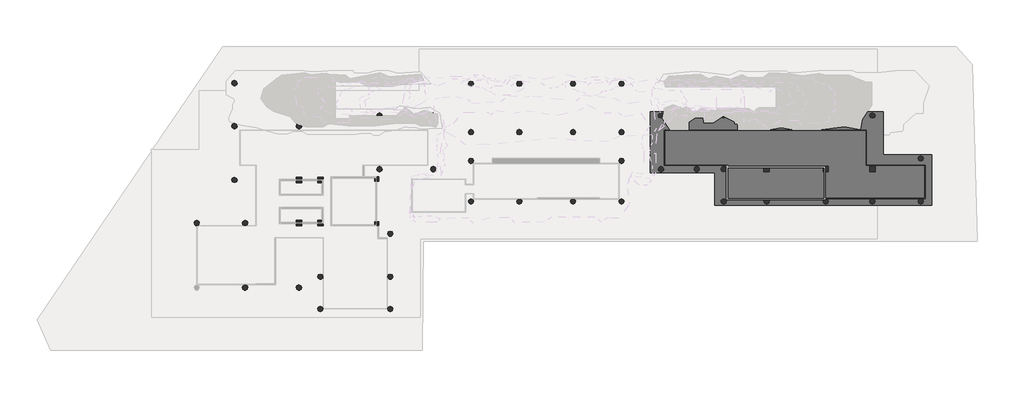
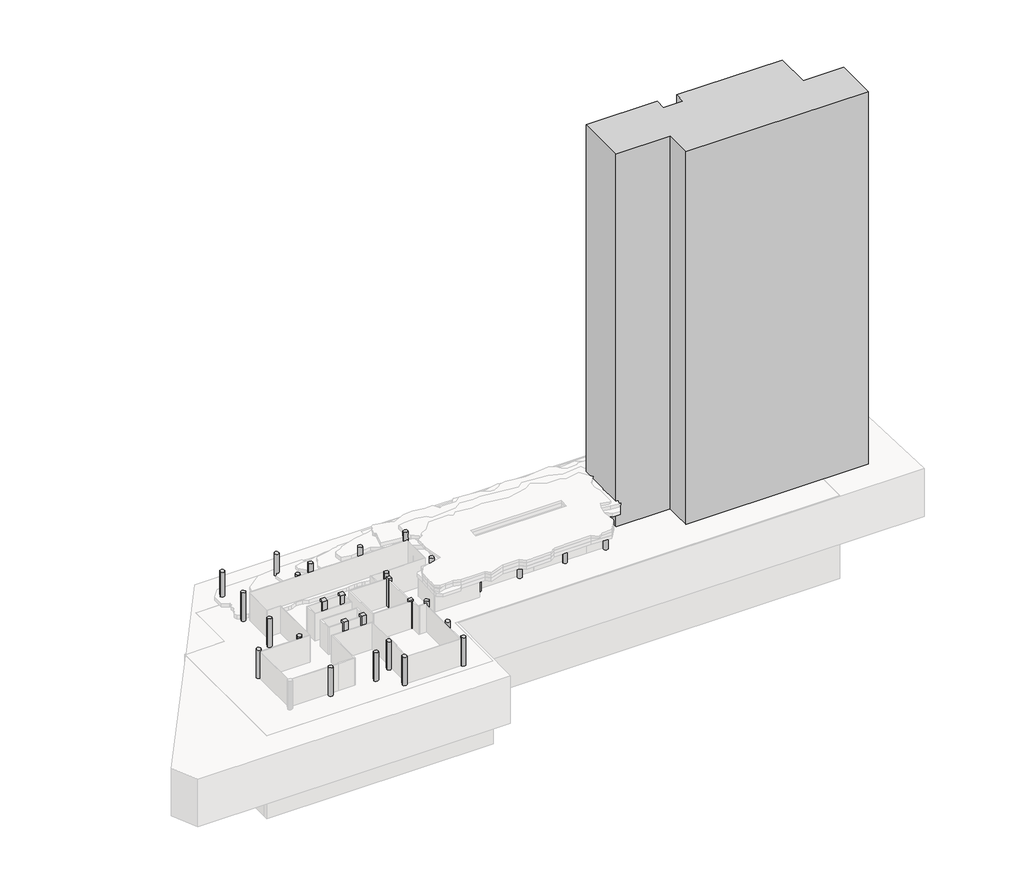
# One storey, part 3 of 3: 57 columns, 1 proxy.
"""IFC4 building model written with IfcOpenShell, lengths in millimetres."""

from ifc_helpers import new_model, si_unit, point, frame, frame_2d, origin, place, context, project, spatial, polyline, circle_curve, trimmed, segment, composite_curve, outline, extrude, faceted_brep, transform, mapped, element, save
from ifc_brep_helpers import plane_surface, cylinder_surface, advanced_brep
from components import ajn_arc_poteau_circulaire_cd6ccd54, ajn_arc_poteau_rectangulaire_79770069

model = new_model("IFC4")

# Units and contexts
model_context = context("Model", 3, world=origin())
ifc_project = project(units=[si_unit("LENGTHUNIT", "METRE", prefix="MILLI")], contexts=[model_context])

# Site, building, storey
site = spatial("IfcSite", under=ifc_project)
building = spatial("IfcBuilding", under=site)
storey = spatial("IfcBuildingStorey", under=building, Name="TW-L 01", Elevation=-3.14e-05)

# Proxy
placement = place(None, origin())
element("IfcBuildingElementProxy", 1, Name="AJN-ARC-MASS TE : AJN-ARC-MASS TE", ObjectType="AJN-ARC-MASS TE : AJN-ARC-MASS TE", at=placement, inside=storey, context=model_context, shape_type="SweptSolid", body=[
    extrude(outline(polyline([(147400.0, 24300.0), (111100.0, 24300.0), (111100.0, 29700.0), (100300.0, 29700.0), (100300.0, 39900.0), (114400.0, 39900.0), (114400.0, 37800.0), (118300.0, 37800.0), (118300.0, 39900.0), (139300.0, 39900.0), (139300.0, 32700.0), (147400.0, 32700.0), (147400.0, 24300.0)])), frame((0.0, 0.0, -3.14e-05), z_axis=(0.0, 0.0, 1.0), x_axis=(1.0, 0.0, 0.0)), (0.0, 0.0, 1.0), 78400.0),
])

# Columns
element("IfcColumn", 2, ObjectType="AJN-ARC-POTEAU CIRCULAIRE : ø90", at=placement, inside=storey, context=model_context, shape_type="SweptSolid", body=[
    extrude(outline(composite_curve([segment(trimmed(circle_curve(frame_2d((30700.0, 44700.0)), 450.0), [point((30250.0, 44700.0))], [point((31150.0, 44700.0))], False, "CARTESIAN"), True, "CONTINUOUS"), segment(trimmed(circle_curve(frame_2d((30700.0, 44700.0)), 450.0), [point((31150.0, 44700.0))], [point((30250.0, 44700.0))], False, "CARTESIAN"), True, "CONTINUOUS")], self_intersect=False)), frame((0.0, 0.0, -3.14e-05), z_axis=(0.0, 0.0, 1.0), x_axis=(1.0, 0.0, 0.0)), (0.0, 0.0, 1.0), 6000.0),
])
element("IfcColumn", 3, ObjectType="AJN-ARC-POTEAU CIRCULAIRE : ø90", at=placement, inside=storey, context=model_context, shape_type="SweptSolid", body=[
    extrude(outline(composite_curve([segment(trimmed(circle_curve(frame_2d((41500.0, 44700.0)), 450.0), [point((41050.0, 44700.0))], [point((41950.0, 44700.0))], False, "CARTESIAN"), True, "CONTINUOUS"), segment(trimmed(circle_curve(frame_2d((41500.0, 44700.0)), 450.0), [point((41950.0, 44700.0))], [point((41050.0, 44700.0))], False, "CARTESIAN"), True, "CONTINUOUS")], self_intersect=False)), frame((0.0, 0.0, -3.14e-05), z_axis=(0.0, 0.0, 1.0), x_axis=(1.0, 0.0, 0.0)), (0.0, 0.0, 1.0), 6000.0),
])
element("IfcColumn", 4, ObjectType="AJN-ARC-POTEAU CIRCULAIRE : ø90", at=placement, inside=storey, context=model_context, shape_type="SweptSolid", body=[
    extrude(outline(composite_curve([segment(trimmed(circle_curve(frame_2d((41500.0, 37500.0)), 450.0), [point((41050.0, 37500.0))], [point((41950.0, 37500.0))], False, "CARTESIAN"), True, "CONTINUOUS"), segment(trimmed(circle_curve(frame_2d((41500.0, 37500.0)), 450.0), [point((41950.0, 37500.0))], [point((41050.0, 37500.0))], False, "CARTESIAN"), True, "CONTINUOUS")], self_intersect=False)), frame((0.0, 0.0, -3.14e-05), z_axis=(0.0, 0.0, 1.0), x_axis=(1.0, 0.0, 0.0)), (0.0, 0.0, 1.0), 6000.0),
])
element("IfcColumn", 5, ObjectType="AJN-ARC-POTEAU CIRCULAIRE : ø90", at=placement, inside=storey, context=model_context, shape_type="SweptSolid", body=[
    extrude(outline(composite_curve([segment(trimmed(circle_curve(frame_2d((32500.0, 21300.0)), 450.0), [point((32050.0, 21300.0))], [point((32950.0, 21300.0))], False, "CARTESIAN"), True, "CONTINUOUS"), segment(trimmed(circle_curve(frame_2d((32500.0, 21300.0)), 450.0), [point((32950.0, 21300.0))], [point((32050.0, 21300.0))], False, "CARTESIAN"), True, "CONTINUOUS")], self_intersect=False)), frame((0.0, 0.0, -3.14e-05), z_axis=(0.0, 0.0, 1.0), x_axis=(1.0, 0.0, 0.0)), (0.0, 0.0, 1.0), 6000.0),
])
element("IfcColumn", 6, ObjectType="AJN-ARC-POTEAU CIRCULAIRE : ø90", at=placement, inside=storey, context=model_context, shape_type="SweptSolid", body=[
    extrude(outline(composite_curve([segment(trimmed(circle_curve(frame_2d((24400.0, 21300.0)), 450.0), [point((23950.0, 21300.0))], [point((24850.0, 21300.0))], False, "CARTESIAN"), True, "CONTINUOUS"), segment(trimmed(circle_curve(frame_2d((24400.0, 21300.0)), 450.0), [point((24850.0, 21300.0))], [point((23950.0, 21300.0))], False, "CARTESIAN"), True, "CONTINUOUS")], self_intersect=False)), frame((0.0, 0.0, -3.14e-05), z_axis=(0.0, 0.0, 1.0), x_axis=(1.0, 0.0, 0.0)), (0.0, 0.0, 1.0), 6000.0),
])
element("IfcColumn", 7, ObjectType="AJN-ARC-POTEAU CIRCULAIRE : ø90", at=placement, inside=storey, context=model_context, shape_type="SweptSolid", body=[
    extrude(outline(composite_curve([segment(trimmed(circle_curve(frame_2d((32500.0, 10500.0)), 450.0), [point((32050.0, 10500.0))], [point((32950.0, 10500.0))], False, "CARTESIAN"), True, "CONTINUOUS"), segment(trimmed(circle_curve(frame_2d((32500.0, 10500.0)), 450.0), [point((32950.0, 10500.0))], [point((32050.0, 10500.0))], False, "CARTESIAN"), True, "CONTINUOUS")], self_intersect=False)), frame((0.0, 0.0, -3.14e-05), z_axis=(0.0, 0.0, 1.0), x_axis=(1.0, 0.0, 0.0)), (0.0, 0.0, 1.0), 6000.0),
])
element("IfcColumn", 8, ObjectType="AJN-ARC-POTEAU CIRCULAIRE : ø90", at=placement, inside=storey, context=model_context, shape_type="SweptSolid", body=[
    extrude(outline(composite_curve([segment(trimmed(circle_curve(frame_2d((45100.0, 12300.0)), 450.0), [point((44650.0, 12300.0))], [point((45550.0, 12300.0))], False, "CARTESIAN"), True, "CONTINUOUS"), segment(trimmed(circle_curve(frame_2d((45100.0, 12300.0)), 450.0), [point((45550.0, 12300.0))], [point((44650.0, 12300.0))], False, "CARTESIAN"), True, "CONTINUOUS")], self_intersect=False)), frame((0.0, 0.0, -3.14e-05), z_axis=(0.0, 0.0, 1.0), x_axis=(1.0, 0.0, 0.0)), (0.0, 0.0, 1.0), 6000.0),
])
element("IfcColumn", 9, ObjectType="AJN-ARC-POTEAU CIRCULAIRE : ø90", at=placement, inside=storey, context=model_context, shape_type="SweptSolid", body=[
    extrude(outline(composite_curve([segment(trimmed(circle_curve(frame_2d((45100.0, 6900.0)), 450.0), [point((44650.0, 6900.0))], [point((45550.0, 6900.0))], False, "CARTESIAN"), True, "CONTINUOUS"), segment(trimmed(circle_curve(frame_2d((45100.0, 6900.0)), 450.0), [point((45550.0, 6900.0))], [point((44650.0, 6900.0))], False, "CARTESIAN"), True, "CONTINUOUS")], self_intersect=False)), frame((0.0, 0.0, -3.14e-05), z_axis=(0.0, 0.0, 1.0), x_axis=(1.0, 0.0, 0.0)), (0.0, 0.0, 1.0), 6000.0),
])
element("IfcColumn", 10, ObjectType="AJN-ARC-POTEAU CIRCULAIRE : ø90", at=placement, inside=storey, context=model_context, shape_type="SweptSolid", body=[
    extrude(outline(composite_curve([segment(trimmed(circle_curve(frame_2d((56800.0, 6900.0)), 450.0), [point((56350.0, 6900.0))], [point((57250.0, 6900.0))], False, "CARTESIAN"), True, "CONTINUOUS"), segment(trimmed(circle_curve(frame_2d((56800.0, 6900.0)), 450.0), [point((57250.0, 6900.0))], [point((56350.0, 6900.0))], False, "CARTESIAN"), True, "CONTINUOUS")], self_intersect=False)), frame((0.0, 0.0, -3.14e-05), z_axis=(0.0, 0.0, 1.0), x_axis=(1.0, 0.0, 0.0)), (0.0, 0.0, 1.0), 6000.0),
])
element("IfcColumn", 11, ObjectType="AJN-ARC-POTEAU CIRCULAIRE : ø90", at=placement, inside=storey, context=model_context, shape_type="SweptSolid", body=[
    extrude(outline(composite_curve([segment(trimmed(circle_curve(frame_2d((56800.0, 12300.0)), 450.0), [point((56350.0, 12300.0))], [point((57250.0, 12300.0))], False, "CARTESIAN"), True, "CONTINUOUS"), segment(trimmed(circle_curve(frame_2d((56800.0, 12300.0)), 450.0), [point((57250.0, 12300.0))], [point((56350.0, 12300.0))], False, "CARTESIAN"), True, "CONTINUOUS")], self_intersect=False)), frame((0.0, 0.0, -3.14e-05), z_axis=(0.0, 0.0, 1.0), x_axis=(1.0, 0.0, 0.0)), (0.0, 0.0, 1.0), 6000.0),
])
element("IfcColumn", 12, ObjectType="AJN-ARC-POTEAU CIRCULAIRE : ø90", at=placement, inside=storey, context=model_context, shape_type="SweptSolid", body=[
    extrude(outline(composite_curve([segment(trimmed(circle_curve(frame_2d((112600.0, 30300.0)), 450.0), [point((112150.0, 30300.0))], [point((113050.0, 30300.0))], False, "CARTESIAN"), True, "CONTINUOUS"), segment(trimmed(circle_curve(frame_2d((112600.0, 30300.0)), 450.0), [point((113050.0, 30300.0))], [point((112150.0, 30300.0))], False, "CARTESIAN"), True, "CONTINUOUS")], self_intersect=False)), frame((0.0, 0.0, -3.14e-05), z_axis=(0.0, 0.0, 1.0), x_axis=(1.0, 0.0, 0.0)), (0.0, 0.0, 1.0), 6000.0),
])
element("IfcColumn", 13, ObjectType="AJN-ARC-POTEAU CIRCULAIRE : ø90", at=placement, inside=storey, context=model_context, shape_type="SweptSolid", body=[
    extrude(outline(composite_curve([segment(trimmed(circle_curve(frame_2d((112600.0, 24900.0)), 450.0), [point((112150.0, 24900.0))], [point((113050.0, 24900.0))], False, "CARTESIAN"), True, "CONTINUOUS"), segment(trimmed(circle_curve(frame_2d((112600.0, 24900.0)), 450.0), [point((113050.0, 24900.0))], [point((112150.0, 24900.0))], False, "CARTESIAN"), True, "CONTINUOUS")], self_intersect=False)), frame((0.0, 0.0, -3.14e-05), z_axis=(0.0, 0.0, 1.0), x_axis=(1.0, 0.0, 0.0)), (0.0, 0.0, 1.0), 6000.0),
])
element("IfcColumn", 14, ObjectType="AJN-ARC-POTEAU CIRCULAIRE : ø90", at=placement, inside=storey, context=model_context, shape_type="AdvancedBrep", body=[
    advanced_brep(
    [(120250.0, 24900.0, -3.14e-05), (119350.0, 24900.0, -3.14e-05), (119425.8342613, 25150.0, -3.14e-05), (120174.1657387, 25150.0, -3.14e-05), (119350.0, 24900.0, 5999.9999686), (120250.0, 24900.0, 5999.9999686), (120174.1657387, 25150.0, 5699.9999686), (119800.0, 25350.0, 5699.9999686), (119425.8342613, 25150.0, 5699.9999686)],
    [
        (0, 1, circle_curve(frame((119800.0, 24900.0, -3.14e-05), z_axis=(0.0, 0.0, -1.0), x_axis=(1.0, 0.0, 0.0)), 450.0)),
        (1, 2, circle_curve(frame((119800.0, 24900.0, -3.14e-05), z_axis=(0.0, 0.0, -1.0), x_axis=(1.0, 0.0, 0.0)), 450.0)),
        (2, 3),
        (3, 0, circle_curve(frame((119800.0, 24900.0, -3.14e-05), z_axis=(0.0, 0.0, -1.0), x_axis=(1.0, 0.0, 0.0)), 450.0)),
        (4, 5, circle_curve(frame((119800.0, 24900.0, 5999.9999686), z_axis=(0.0, 0.0, -1.0), x_axis=(1.0, 0.0, 0.0)), 450.0)),
        (5, 0),
        (3, 6),
        (6, 7, circle_curve(frame((119800.0, 24900.0, 5699.9999686), z_axis=(0.0, 0.0, 1.0), x_axis=(1.0, 0.0, 0.0)), 450.0)),
        (7, 8, circle_curve(frame((119800.0, 24900.0, 5699.9999686), z_axis=(0.0, 0.0, 1.0), x_axis=(1.0, 0.0, 0.0)), 450.0)),
        (8, 2),
        (1, 4),
        (5, 4, circle_curve(frame((119800.0, 24900.0, 5999.9999686), z_axis=(0.0, 0.0, -1.0), x_axis=(1.0, 0.0, 0.0)), 450.0)),
        (8, 6),
    ],
    [
        plane_surface(frame((120250.0, 24900.0, -3.14e-05), z_axis=(0.0, 0.0, -1.0), x_axis=(0.0, -1.0, 0.0))),
        cylinder_surface(frame((119800.0, 24900.0, -3.14e-05), z_axis=(0.0, 0.0, 1.0), x_axis=(1.0, 0.0, 0.0)), 450.0),
        plane_surface(frame((120250.0, 24900.0, 5999.9999686), z_axis=(0.0, 0.0, 1.0), x_axis=(0.0, 1.0, 0.0))),
        plane_surface(frame((113150.0, 25150.0, -3.14e-05), z_axis=(0.0, 1.0, 0.0), x_axis=(1.0, 0.0, 0.0))),
        plane_surface(frame((64150.0790143, 29850.0000057, 5699.9999686), z_axis=(0.0, 0.0, -1.0), x_axis=(-5.308755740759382e-05, 0.9999999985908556, 0.0))),
    ],
    [
        (0, [[1, 2, 3, 4]]),
        (1, [[5, 6, -4, 7, 8, 9, 10, -2, 11]]),
        (1, [[-1, -6, 12, -11]]),
        (2, [[-5, -12]]),
        (3, [[13, -7, -3, -10]]),
        (4, [[-13, -9, -8]]),
    ],
),
])
element("IfcColumn", 15, ObjectType="AJN-ARC-POTEAU CIRCULAIRE : ø90", at=placement, inside=storey, context=model_context, shape_type="AdvancedBrep", body=[
    advanced_brep(
    [(130150.0, 24900.0, -3.14e-05), (129250.0, 24900.0, -3.14e-05), (129325.8342613, 25150.0, -3.14e-05), (129600.0, 25150.0, -3.14e-05), (129600.0, 25338.7482194, -3.14e-05), (129250.0, 24900.0, 5999.9999686), (130150.0, 24900.0, 5999.9999686), (129600.0, 25338.7482194, 5699.9999686), (129325.8342613, 25150.0, 5699.9999686), (129600.0, 25150.0, 5699.9999686)],
    [
        (0, 1, circle_curve(frame((129700.0, 24900.0, -3.14e-05), z_axis=(0.0, 0.0, -1.0), x_axis=(1.0, 0.0, 0.0)), 450.0)),
        (1, 2, circle_curve(frame((129700.0, 24900.0, -3.14e-05), z_axis=(0.0, 0.0, -1.0), x_axis=(1.0, 0.0, 0.0)), 450.0)),
        (2, 3),
        (3, 4),
        (4, 0, circle_curve(frame((129700.0, 24900.0, -3.14e-05), z_axis=(0.0, 0.0, -1.0), x_axis=(1.0, 0.0, 0.0)), 450.0)),
        (5, 6, circle_curve(frame((129700.0, 24900.0, 5999.9999686), z_axis=(0.0, 0.0, -1.0), x_axis=(1.0, 0.0, 0.0)), 450.0)),
        (6, 0),
        (4, 7),
        (7, 8, circle_curve(frame((129700.0, 24900.0, 5699.9999686), z_axis=(0.0, 0.0, 1.0), x_axis=(1.0, 0.0, 0.0)), 450.0)),
        (8, 2),
        (1, 5),
        (6, 5, circle_curve(frame((129700.0, 24900.0, 5999.9999686), z_axis=(0.0, 0.0, -1.0), x_axis=(1.0, 0.0, 0.0)), 450.0)),
        (9, 3),
        (8, 9),
        (9, 7),
    ],
    [
        plane_surface(frame((130150.0, 24900.0, -3.14e-05), z_axis=(0.0, 0.0, -1.0), x_axis=(0.0, -1.0, 0.0))),
        cylinder_surface(frame((129700.0, 24900.0, -3.14e-05), z_axis=(0.0, 0.0, 1.0), x_axis=(1.0, 0.0, 0.0)), 450.0),
        plane_surface(frame((130150.0, 24900.0, 5999.9999686), z_axis=(0.0, 0.0, 1.0), x_axis=(0.0, 1.0, 0.0))),
        plane_surface(frame((113150.0, 25150.0, -3.14e-05), z_axis=(0.0, 1.0, 0.0), x_axis=(1.0, 0.0, 0.0))),
        plane_surface(frame((129600.0, 25250.0, -3.14e-05), z_axis=(-1.0, 0.0, 0.0), x_axis=(0.0, 1.0, 0.0))),
        plane_surface(frame((64150.0790143, 29850.0000057, 5699.9999686), z_axis=(0.0, 0.0, -1.0), x_axis=(-5.308755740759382e-05, 0.9999999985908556, 0.0))),
    ],
    [
        (0, [[1, 2, 3, 4, 5]]),
        (1, [[6, 7, -5, 8, 9, 10, -2, 11]]),
        (1, [[-1, -7, 12, -11]]),
        (2, [[-6, -12]]),
        (3, [[13, -3, -10, 14]]),
        (4, [[-13, 15, -8, -4]]),
        (5, [[-14, -9, -15]]),
    ],
),
])
element("IfcColumn", 16, ObjectType="AJN-ARC-POTEAU CIRCULAIRE : ø90", at=placement, inside=storey, context=model_context, shape_type="SweptSolid", body=[
    extrude(outline(composite_curve([segment(trimmed(circle_curve(frame_2d((137500.0, 24900.0)), 450.0), [point((137050.0, 24900.0))], [point((137950.0, 24900.0))], False, "CARTESIAN"), True, "CONTINUOUS"), segment(trimmed(circle_curve(frame_2d((137500.0, 24900.0)), 450.0), [point((137950.0, 24900.0))], [point((137050.0, 24900.0))], False, "CARTESIAN"), True, "CONTINUOUS")], self_intersect=False)), frame((0.0, 0.0, -3.14e-05), z_axis=(0.0, 0.0, 1.0), x_axis=(1.0, 0.0, 0.0)), (0.0, 0.0, 1.0), 6000.0),
])
element("IfcColumn", 17, ObjectType="AJN-ARC-POTEAU CIRCULAIRE : ø90", at=placement, inside=storey, context=model_context, shape_type="SweptSolid", body=[
    extrude(outline(composite_curve([segment(trimmed(circle_curve(frame_2d((145600.0, 24900.0)), 450.0), [point((145150.0, 24900.0))], [point((146050.0, 24900.0))], False, "CARTESIAN"), True, "CONTINUOUS"), segment(trimmed(circle_curve(frame_2d((145600.0, 24900.0)), 450.0), [point((146050.0, 24900.0))], [point((145150.0, 24900.0))], False, "CARTESIAN"), True, "CONTINUOUS")], self_intersect=False)), frame((0.0, 0.0, -3.14e-05), z_axis=(0.0, 0.0, 1.0), x_axis=(1.0, 0.0, 0.0)), (0.0, 0.0, 1.0), 6000.0),
])
element("IfcColumn", 18, ObjectType="AJN-ARC-POTEAU CIRCULAIRE : ø90", at=placement, inside=storey, context=model_context, shape_type="SweptSolid", body=[
    extrude(outline(composite_curve([segment(trimmed(circle_curve(frame_2d((70300.0, 24900.0)), 450.0), [point((69850.0, 24900.0))], [point((70750.0, 24900.0))], False, "CARTESIAN"), True, "CONTINUOUS"), segment(trimmed(circle_curve(frame_2d((70300.0, 24900.0)), 450.0), [point((70750.0, 24900.0))], [point((69850.0, 24900.0))], False, "CARTESIAN"), True, "CONTINUOUS")], self_intersect=False)), frame((0.0, 0.0, -3.14e-05), z_axis=(0.0, 0.0, 1.0), x_axis=(1.0, 0.0, 0.0)), (0.0, 0.0, 1.0), 4000.0),
])
element("IfcColumn", 19, ObjectType="AJN-ARC-POTEAU CIRCULAIRE : ø90", at=placement, inside=storey, context=model_context, shape_type="AdvancedBrep", body=[
    advanced_brep(
    [(87850.0, 24900.0, -3.14e-05), (86950.0, 24900.0, -3.14e-05), (87193.8685441, 25300.0122784, -3.14e-05), (87606.1334684, 25300.0112414, -3.14e-05), (86950.0, 24900.0, 5400.0), (87850.0, 24900.0, 5400.0), (87606.1334684, 25300.0112414, 4000.0), (87193.8685441, 25300.0122784, 4000.0)],
    [
        (0, 1, circle_curve(frame((87400.0, 24900.0, -3.14e-05), z_axis=(0.0, 0.0, -1.0), x_axis=(1.0, 0.0, 0.0)), 450.0)),
        (1, 2, circle_curve(frame((87400.0, 24900.0, -3.14e-05), z_axis=(0.0, 0.0, -1.0), x_axis=(1.0, 0.0, 0.0)), 450.0)),
        (2, 3),
        (3, 0, circle_curve(frame((87400.0, 24900.0, -3.14e-05), z_axis=(0.0, 0.0, -1.0), x_axis=(1.0, 0.0, 0.0)), 450.0)),
        (4, 5, circle_curve(frame((87400.0, 24900.0, 5400.0), z_axis=(0.0, 0.0, -1.0), x_axis=(1.0, 0.0, 0.0)), 450.0)),
        (5, 0),
        (3, 6),
        (6, 7, circle_curve(frame((87400.0, 24900.0, 4000.0), z_axis=(0.0, 0.0, 1.0), x_axis=(1.0, 0.0, 0.0)), 450.0)),
        (7, 2),
        (1, 4),
        (5, 4, circle_curve(frame((87400.0, 24900.0, 5400.0), z_axis=(0.0, 0.0, -1.0), x_axis=(1.0, 0.0, 0.0)), 450.0)),
        (7, 6),
    ],
    [
        plane_surface(frame((87850.0, 24900.0, -3.14e-05), z_axis=(0.0, 0.0, -1.0), x_axis=(0.0, -1.0, 0.0))),
        cylinder_surface(frame((87400.0, 24900.0, -3.14e-05), z_axis=(0.0, 0.0, 1.0), x_axis=(1.0, 0.0, 0.0)), 450.0),
        plane_surface(frame((87850.0, 24900.0, 5400.0), z_axis=(0.0, 0.0, 1.0), x_axis=(0.0, 1.0, 0.0))),
        plane_surface(frame((81399.9979052, 25300.0268529, -3.14e-05), z_axis=(2.515498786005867e-06, 0.9999999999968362, 0.0), x_axis=(0.9999999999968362, -2.515498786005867e-06, 0.0))),
        plane_surface(frame((91035.9794852, 22273.0810943, 4000.0), z_axis=(0.0, 0.0, -1.0), x_axis=(-1.0, 0.0, 0.0))),
    ],
    [
        (0, [[1, 2, 3, 4]]),
        (1, [[5, 6, -4, 7, 8, 9, -2, 10]]),
        (1, [[-1, -6, 11, -10]]),
        (2, [[-5, -11]]),
        (3, [[12, -7, -3, -9]]),
        (4, [[-12, -8]]),
    ],
),
])
element("IfcColumn", 20, ObjectType="AJN-ARC-POTEAU CIRCULAIRE : ø90", at=placement, inside=storey, context=model_context, shape_type="SweptSolid", body=[
    extrude(outline(composite_curve([segment(trimmed(circle_curve(frame_2d((95500.0, 24900.0)), 450.0), [point((95050.0, 24900.0))], [point((95950.0, 24900.0))], False, "CARTESIAN"), True, "CONTINUOUS"), segment(trimmed(circle_curve(frame_2d((95500.0, 24900.0)), 450.0), [point((95950.0, 24900.0))], [point((95050.0, 24900.0))], False, "CARTESIAN"), True, "CONTINUOUS")], self_intersect=False)), frame((0.0, 0.0, -3.14e-05), z_axis=(0.0, 0.0, 1.0), x_axis=(1.0, 0.0, 0.0)), (0.0, 0.0, 1.0), 5400.0000314),
])
element("IfcColumn", 21, ObjectType="AJN-ARC-POTEAU CIRCULAIRE : ø90", at=placement, inside=storey, context=model_context, shape_type="SweptSolid", body=[
    extrude(outline(composite_curve([segment(trimmed(circle_curve(frame_2d((95500.0, 31699.999994)), 450.0), [point((95050.0, 31699.999994))], [point((95950.0, 31699.999994))], False, "CARTESIAN"), True, "CONTINUOUS"), segment(trimmed(circle_curve(frame_2d((95500.0, 31699.999994)), 450.0), [point((95950.0, 31699.999994))], [point((95050.0, 31699.999994))], False, "CARTESIAN"), True, "CONTINUOUS")], self_intersect=False)), frame((0.0, 0.0, -3.14e-05), z_axis=(0.0, 0.0, 1.0), x_axis=(1.0, 0.0, 0.0)), (0.0, 0.0, 1.0), 5400.0000314),
])
element("IfcColumn", 22, ObjectType="AJN-ARC-POTEAU CIRCULAIRE : ø90", at=placement, inside=storey, context=model_context, shape_type="SweptSolid", body=[
    extrude(outline(composite_curve([segment(trimmed(circle_curve(frame_2d((70300.0, 31699.999994)), 450.0), [point((69850.0, 31699.999994))], [point((70750.0, 31699.999994))], False, "CARTESIAN"), True, "CONTINUOUS"), segment(trimmed(circle_curve(frame_2d((70300.0, 31699.999994)), 450.0), [point((70750.0, 31699.999994))], [point((69850.0, 31699.999994))], False, "CARTESIAN"), True, "CONTINUOUS")], self_intersect=False)), frame((0.0, 0.0, -3.14e-05), z_axis=(0.0, 0.0, 1.0), x_axis=(1.0, 0.0, 0.0)), (0.0, 0.0, 1.0), 5400.0000314),
])
element("IfcColumn", 23, ObjectType="AJN-ARC-POTEAU CIRCULAIRE : ø90", at=placement, inside=storey, context=model_context, shape_type="SweptSolid", body=[
    extrude(outline(composite_curve([segment(trimmed(circle_curve(frame_2d((70300.0, 36500.0)), 450.0), [point((69850.0, 36500.0))], [point((70750.0, 36500.0))], False, "CARTESIAN"), True, "CONTINUOUS"), segment(trimmed(circle_curve(frame_2d((70300.0, 36500.0)), 450.0), [point((70750.0, 36500.0))], [point((69850.0, 36500.0))], False, "CARTESIAN"), True, "CONTINUOUS")], self_intersect=False)), frame((0.0, 0.0, -3.14e-05), z_axis=(0.0, 0.0, 1.0), x_axis=(1.0, 0.0, 0.0)), (0.0, 0.0, 1.0), 5400.0000314),
])
element("IfcColumn", 24, ObjectType="AJN-ARC-POTEAU CIRCULAIRE : ø90", at=placement, inside=storey, context=model_context, shape_type="SweptSolid", body=[
    extrude(outline(composite_curve([segment(trimmed(circle_curve(frame_2d((78400.0, 36500.0)), 450.0), [point((77950.0, 36500.0))], [point((78850.0, 36500.0))], False, "CARTESIAN"), True, "CONTINUOUS"), segment(trimmed(circle_curve(frame_2d((78400.0, 36500.0)), 450.0), [point((78850.0, 36500.0))], [point((77950.0, 36500.0))], False, "CARTESIAN"), True, "CONTINUOUS")], self_intersect=False)), frame((0.0, 0.0, -3.14e-05), z_axis=(0.0, 0.0, 1.0), x_axis=(1.0, 0.0, 0.0)), (0.0, 0.0, 1.0), 5400.0000314),
])
element("IfcColumn", 25, ObjectType="AJN-ARC-POTEAU CIRCULAIRE : ø90", at=placement, inside=storey, context=model_context, shape_type="SweptSolid", body=[
    extrude(outline(composite_curve([segment(trimmed(circle_curve(frame_2d((87400.0, 36500.0)), 450.0), [point((86950.0, 36500.0))], [point((87850.0, 36500.0))], False, "CARTESIAN"), True, "CONTINUOUS"), segment(trimmed(circle_curve(frame_2d((87400.0, 36500.0)), 450.0), [point((87850.0, 36500.0))], [point((86950.0, 36500.0))], False, "CARTESIAN"), True, "CONTINUOUS")], self_intersect=False)), frame((0.0, 0.0, -3.14e-05), z_axis=(0.0, 0.0, 1.0), x_axis=(1.0, 0.0, 0.0)), (0.0, 0.0, 1.0), 5400.0000314),
])
element("IfcColumn", 26, ObjectType="AJN-ARC-POTEAU CIRCULAIRE : ø90", at=placement, inside=storey, context=model_context, shape_type="SweptSolid", body=[
    extrude(outline(composite_curve([segment(trimmed(circle_curve(frame_2d((95500.0, 36500.0)), 450.0), [point((95050.0, 36500.0))], [point((95950.0, 36500.0))], False, "CARTESIAN"), True, "CONTINUOUS"), segment(trimmed(circle_curve(frame_2d((95500.0, 36500.0)), 450.0), [point((95950.0, 36500.0))], [point((95050.0, 36500.0))], False, "CARTESIAN"), True, "CONTINUOUS")], self_intersect=False)), frame((0.0, 0.0, -3.14e-05), z_axis=(0.0, 0.0, 1.0), x_axis=(1.0, 0.0, 0.0)), (0.0, 0.0, 1.0), 5400.0000314),
])
element("IfcColumn", 27, ObjectType="AJN-ARC-POTEAU CIRCULAIRE : ø90", at=placement, inside=storey, context=model_context, shape_type="SweptSolid", body=[
    extrude(outline(composite_curve([segment(trimmed(circle_curve(frame_2d((70300.0, 44600.0)), 450.0), [point((69850.0, 44600.0))], [point((70750.0, 44600.0))], False, "CARTESIAN"), True, "CONTINUOUS"), segment(trimmed(circle_curve(frame_2d((70300.0, 44600.0)), 450.0), [point((70750.0, 44600.0))], [point((69850.0, 44600.0))], False, "CARTESIAN"), True, "CONTINUOUS")], self_intersect=False)), frame((0.0, 0.0, -3.14e-05), z_axis=(0.0, 0.0, 1.0), x_axis=(1.0, 0.0, 0.0)), (0.0, 0.0, 1.0), 3200.0000314),
])
element("IfcColumn", 28, ObjectType="AJN-ARC-POTEAU CIRCULAIRE : ø90", at=placement, inside=storey, context=model_context, shape_type="SweptSolid", body=[
    extrude(outline(composite_curve([segment(trimmed(circle_curve(frame_2d((78400.0, 44600.0)), 450.0), [point((77950.0, 44600.0))], [point((78850.0, 44600.0))], False, "CARTESIAN"), True, "CONTINUOUS"), segment(trimmed(circle_curve(frame_2d((78400.0, 44600.0)), 450.0), [point((78850.0, 44600.0))], [point((77950.0, 44600.0))], False, "CARTESIAN"), True, "CONTINUOUS")], self_intersect=False)), frame((0.0, 0.0, -3.14e-05), z_axis=(0.0, 0.0, 1.0), x_axis=(1.0, 0.0, 0.0)), (0.0, 0.0, 1.0), 3200.0000314),
])
element("IfcColumn", 29, ObjectType="AJN-ARC-POTEAU CIRCULAIRE : ø90", at=placement, inside=storey, context=model_context, shape_type="SweptSolid", body=[
    extrude(outline(composite_curve([segment(trimmed(circle_curve(frame_2d((87400.0, 44600.0)), 450.0), [point((86950.0, 44600.0))], [point((87850.0, 44600.0))], False, "CARTESIAN"), True, "CONTINUOUS"), segment(trimmed(circle_curve(frame_2d((87400.0, 44600.0)), 450.0), [point((87850.0, 44600.0))], [point((86950.0, 44600.0))], False, "CARTESIAN"), True, "CONTINUOUS")], self_intersect=False)), frame((0.0, 0.0, -3.14e-05), z_axis=(0.0, 0.0, 1.0), x_axis=(1.0, 0.0, 0.0)), (0.0, 0.0, 1.0), 3200.0000314),
])
element("IfcColumn", 30, ObjectType="AJN-ARC-POTEAU CIRCULAIRE : ø90", at=placement, inside=storey, context=model_context, shape_type="SweptSolid", body=[
    extrude(outline(composite_curve([segment(trimmed(circle_curve(frame_2d((95500.0, 44600.0)), 450.0), [point((95050.0, 44600.0))], [point((95950.0, 44600.0))], False, "CARTESIAN"), True, "CONTINUOUS"), segment(trimmed(circle_curve(frame_2d((95500.0, 44600.0)), 450.0), [point((95950.0, 44600.0))], [point((95050.0, 44600.0))], False, "CARTESIAN"), True, "CONTINUOUS")], self_intersect=False)), frame((0.0, 0.0, -3.14e-05), z_axis=(0.0, 0.0, 1.0), x_axis=(1.0, 0.0, 0.0)), (0.0, 0.0, 1.0), 3200.0000314),
])
element("IfcColumn", 31, ObjectType="AJN-ARC-POTEAU CIRCULAIRE : ø90", at=placement, inside=storey, context=model_context, shape_type="SweptSolid", body=[
    extrude(outline(composite_curve([segment(trimmed(circle_curve(frame_2d((78400.0, 24900.0)), 450.0), [point((78850.0, 24900.0))], [point((77950.0, 24900.0))], False, "CARTESIAN"), True, "CONTINUOUS"), segment(trimmed(circle_curve(frame_2d((78400.0, 24900.0)), 450.0), [point((77950.0, 24900.0))], [point((78193.9124833, 25300.0349178))], False, "CARTESIAN"), True, "CONTINUOUS"), segment(polyline([(78193.9124833, 25300.0349178), (78606.0895293, 25300.033881)]), True, "CONTINUOUS"), segment(trimmed(circle_curve(frame_2d((78400.0, 24900.0)), 450.0), [point((78606.0895293, 25300.033881))], [point((78850.0, 24900.0))], False, "CARTESIAN"), True, "CONTINUOUS")], self_intersect=False)), frame((0.0, 0.0, -3.14e-05), z_axis=(0.0, 0.0, 1.0), x_axis=(1.0, 0.0, 0.0)), (0.0, 0.0, 1.0), 4000.0000314),
])
ajn_arc_poteau_circulaire_shape = ajn_arc_poteau_circulaire_cd6ccd54(model_context)
element("IfcColumn", 32, ObjectType="AJN-ARC-POTEAU CIRCULAIRE : ø90", at=placement, inside=storey, context=model_context, shape_type="MappedRepresentation", body=[
    mapped(ajn_arc_poteau_circulaire_shape, transform((30700.0, 37500.0, 0.0), x_axis=(1.0, 0.0, 0.0), y_axis=(0.0, 1.0, 0.0), z_axis=(0.0, 0.0, 1.0))),
])
element("IfcColumn", 33, ObjectType="AJN-ARC-POTEAU CIRCULAIRE : ø90", at=placement, inside=storey, context=model_context, shape_type="MappedRepresentation", body=[
    mapped(ajn_arc_poteau_circulaire_shape, transform((55000.0, 39300.0, 0.0), x_axis=(1.0, 0.0, 0.0), y_axis=(0.0, 1.0, 0.0), z_axis=(0.0, 0.0, 1.0))),
])
element("IfcColumn", 34, ObjectType="AJN-ARC-POTEAU CIRCULAIRE : ø90", at=placement, inside=storey, context=model_context, shape_type="MappedRepresentation", body=[
    mapped(ajn_arc_poteau_circulaire_shape, transform((64000.0, 39300.0, 0.0), x_axis=(1.0, 0.0, 0.0), y_axis=(0.0, 1.0, 0.0), z_axis=(0.0, 0.0, 1.0))),
])
element("IfcColumn", 35, ObjectType="AJN-ARC-POTEAU CIRCULAIRE : ø90", at=placement, inside=storey, context=model_context, shape_type="MappedRepresentation", body=[
    mapped(ajn_arc_poteau_circulaire_shape, transform((64000.0, 30300.0, 0.0), x_axis=(1.0, 0.0, 0.0), y_axis=(0.0, 1.0, 0.0), z_axis=(0.0, 0.0, 1.0))),
])
element("IfcColumn", 36, ObjectType="AJN-ARC-POTEAU CIRCULAIRE : ø90", at=placement, inside=storey, context=model_context, shape_type="MappedRepresentation", body=[
    mapped(ajn_arc_poteau_circulaire_shape, transform((55000.0, 30300.0, 0.0), x_axis=(1.0, 0.0, 0.0), y_axis=(0.0, 1.0, 0.0), z_axis=(0.0, 0.0, 1.0))),
])
element("IfcColumn", 37, ObjectType="AJN-ARC-POTEAU CIRCULAIRE : ø90", at=placement, inside=storey, context=model_context, shape_type="MappedRepresentation", body=[
    mapped(ajn_arc_poteau_circulaire_shape, transform((45100.0, 39300.0, 0.0), x_axis=(1.0, 0.0, 0.0), y_axis=(0.0, 1.0, 0.0), z_axis=(0.0, 0.0, 1.0))),
])
element("IfcColumn", 38, ObjectType="AJN-ARC-POTEAU CIRCULAIRE : ø90", at=placement, inside=storey, context=model_context, shape_type="MappedRepresentation", body=[
    mapped(ajn_arc_poteau_circulaire_shape, transform((56800.0, 19500.0, 0.0), x_axis=(1.0, 0.0, 0.0), y_axis=(0.0, 1.0, 0.0), z_axis=(0.0, 0.0, 1.0))),
])
element("IfcColumn", 39, ObjectType="AJN-ARC-POTEAU CIRCULAIRE : ø90", at=placement, inside=storey, context=model_context, shape_type="MappedRepresentation", body=[
    mapped(ajn_arc_poteau_circulaire_shape, transform((41500.0, 10500.0, 0.0), x_axis=(1.0, 0.0, 0.0), y_axis=(0.0, 1.0, 0.0), z_axis=(0.0, 0.0, 1.0))),
])
element("IfcColumn", 40, ObjectType="AJN-ARC-POTEAU CIRCULAIRE : ø90", at=placement, inside=storey, context=model_context, shape_type="MappedRepresentation", body=[
    mapped(ajn_arc_poteau_circulaire_shape, transform((30700.0, 28500.0, 0.0), x_axis=(1.0, 0.0, 0.0), y_axis=(0.0, 1.0, 0.0), z_axis=(0.0, 0.0, 1.0))),
])
element("IfcColumn", 41, ObjectType="AJN-ARC-POTEAU CIRCULAIRE : ø90", at=placement, inside=storey, context=model_context, shape_type="MappedRepresentation", body=[
    mapped(ajn_arc_poteau_circulaire_shape, transform((102100.0, 39300.0, 0.0), x_axis=(1.0, 0.0, 0.0), y_axis=(0.0, 1.0, 0.0), z_axis=(0.0, 0.0, 1.0))),
])
element("IfcColumn", 42, ObjectType="AJN-ARC-POTEAU CIRCULAIRE : ø90", at=placement, inside=storey, context=model_context, shape_type="MappedRepresentation", body=[
    mapped(ajn_arc_poteau_circulaire_shape, transform((102100.0, 30300.0, 0.0), x_axis=(1.0, 0.0, 0.0), y_axis=(0.0, 1.0, 0.0), z_axis=(0.0, 0.0, 1.0))),
])
element("IfcColumn", 43, ObjectType="AJN-ARC-POTEAU CIRCULAIRE : ø90", at=placement, inside=storey, context=model_context, shape_type="MappedRepresentation", body=[
    mapped(ajn_arc_poteau_circulaire_shape, transform((108100.0, 30300.0, 0.0), x_axis=(1.0, 0.0, 0.0), y_axis=(0.0, 1.0, 0.0), z_axis=(0.0, 0.0, 1.0))),
])
element("IfcColumn", 44, ObjectType="AJN-ARC-POTEAU CIRCULAIRE : ø90", at=placement, inside=storey, context=model_context, shape_type="MappedRepresentation", body=[
    mapped(ajn_arc_poteau_circulaire_shape, transform((108100.0, 39300.0, 0.0), x_axis=(1.0, 0.0, 0.0), y_axis=(0.0, 1.0, 0.0), z_axis=(0.0, 0.0, 1.0))),
])
element("IfcColumn", 45, ObjectType="AJN-ARC-POTEAU CIRCULAIRE : ø90", at=placement, inside=storey, context=model_context, shape_type="MappedRepresentation", body=[
    mapped(ajn_arc_poteau_circulaire_shape, transform((112600.0, 39300.0, 0.0), x_axis=(1.0, 0.0, 0.0), y_axis=(0.0, 1.0, 0.0), z_axis=(0.0, 0.0, 1.0))),
])
element("IfcColumn", 46, ObjectType="AJN-ARC-POTEAU CIRCULAIRE : ø90", at=placement, inside=storey, context=model_context, shape_type="MappedRepresentation", body=[
    mapped(ajn_arc_poteau_circulaire_shape, transform((119800.0, 39300.0, 0.0), x_axis=(1.0, 0.0, 0.0), y_axis=(0.0, 1.0, 0.0), z_axis=(0.0, 0.0, 1.0))),
])
element("IfcColumn", 47, ObjectType="AJN-ARC-POTEAU CIRCULAIRE : ø90", at=placement, inside=storey, context=model_context, shape_type="MappedRepresentation", body=[
    mapped(ajn_arc_poteau_circulaire_shape, transform((129700.0, 39300.0, 0.0), x_axis=(1.0, 0.0, 0.0), y_axis=(0.0, 1.0, 0.0), z_axis=(0.0, 0.0, 1.0))),
])
element("IfcColumn", 48, ObjectType="AJN-ARC-POTEAU CIRCULAIRE : ø90", at=placement, inside=storey, context=model_context, shape_type="MappedRepresentation", body=[
    mapped(ajn_arc_poteau_circulaire_shape, transform((137500.0, 39300.0, 0.0), x_axis=(1.0, 0.0, 0.0), y_axis=(0.0, 1.0, 0.0), z_axis=(0.0, 0.0, 1.0))),
])
element("IfcColumn", 49, ObjectType="AJN-ARC-POTEAU CIRCULAIRE : ø90", at=placement, inside=storey, context=model_context, shape_type="MappedRepresentation", body=[
    mapped(ajn_arc_poteau_circulaire_shape, transform((145600.0, 32100.0, 0.0), x_axis=(1.0, 0.0, 0.0), y_axis=(0.0, 1.0, 0.0), z_axis=(0.0, 0.0, 1.0))),
])
element("IfcColumn", 50, ObjectType="AJN-ARC-POTEAU RECTANGULAIRE : 700 mm x 700 mm", at=placement, inside=storey, context=model_context, shape_type="Brep", body=[
    faceted_brep([(54350.0, 28300.0, -3.14e-05), (54200.0, 28300.0, -3.14e-05), (54200.0, 28800.0, -3.14e-05), (54350.0, 28800.0, -3.14e-05), (54900.0, 28300.0, -3.14e-05), (54900.0, 29000.0, -3.14e-05), (54900.0, 29000.0, 5999.9999686), (54900.0, 28300.0, 5999.9999686), (54200.0, 28300.0, 5999.9999686), (54350.0, 28300.0, 5699.9999686), (54550.0, 28300.0, 5699.9999686), (54550.0, 28300.0, -3.14e-05), (54200.0, 29000.0, 5999.9999686), (54200.0, 29000.0, 5699.9999686), (54200.0, 28800.0, 5699.9999686), (54550.0, 29000.0, -3.14e-05), (54550.0, 29000.0, 5699.9999686), (54350.0, 29000.0, 5699.9999686), (54350.0, 28800.0, 5699.9999686)], [[[0, 1, 2, 3]], [[4, 5, 6, 7]], [[4, 7, 8, 1, 0, 9, 10, 11]], [[1, 8, 12, 13, 14, 2]], [[6, 5, 15, 16, 17, 13, 12]], [[7, 6, 12, 8]], [[15, 11, 10, 16]], [[9, 0, 3, 18]], [[5, 4, 11, 15]], [[14, 18, 3, 2]], [[16, 10, 9, 18, 17]], [[18, 14, 13, 17]]]),
])
element("IfcColumn", 51, ObjectType="AJN-ARC-POTEAU RECTANGULAIRE : 700 mm x 700 mm", at=placement, inside=storey, context=model_context, shape_type="Brep", body=[
    faceted_brep([(54200.0, 21000.0, -3.14e-05), (54200.0, 21500.0, -3.14e-05), (54350.0, 21500.0, -3.14e-05), (54350.0, 21000.0, -3.14e-05), (54900.0, 20800.0, -3.14e-05), (54900.0, 21500.0, -3.14e-05), (54900.0, 21500.0, 5999.9999686), (54900.0, 20800.0, 5999.9999686), (54900.0, 20800.0, 5699.9999686), (54200.0, 20800.0, 5999.9999686), (54200.0, 20800.0, 5699.9999686), (54550.0, 20800.0, 5699.9999686), (54550.0, 20800.0, -3.14e-05), (54700.0, 20800.0, -3.14e-05), (54200.0, 21500.0, 5999.9999686), (54200.0, 21000.0, 5699.9999686), (54550.0, 21500.0, -3.14e-05), (54550.0, 21500.0, 5699.9999686), (54350.0, 21500.0, 5699.9999686), (54350.0, 21000.0, 5699.9999686), (54550.0, 21000.0, -3.14e-05), (54550.0, 21000.0, 5699.9999686)], [[[0, 1, 2, 3]], [[4, 5, 6, 7, 8]], [[4, 8, 7, 9, 10, 11, 12, 13]], [[9, 14, 1, 0, 15, 10]], [[6, 5, 16, 17, 18, 2, 1, 14]], [[7, 6, 14, 9]], [[15, 0, 3, 19]], [[20, 12, 11, 21]], [[21, 17, 16, 20]], [[18, 19, 3, 2]], [[5, 4, 13, 12, 20, 16]], [[21, 11, 10, 15, 19]], [[17, 21, 19, 18]]]),
])
element("IfcColumn", 52, ObjectType="AJN-ARC-POTEAU RECTANGULAIRE : 900 mm x 900 mm", at=placement, inside=storey, context=model_context, shape_type="SweptSolid", body=[
    extrude(outline(polyline([(28050.0, -3.14e-05), (28050.0, 5999.9999686), (28950.0, 5999.9999686), (28950.0, -3.14e-05), (28600.0, -3.14e-05), (28600.0, 5699.9999686), (28400.0, 5699.9999686), (28400.0, -3.14e-05), (28050.0, -3.14e-05)])), frame((41050.0, 0.0, 0.0), z_axis=(1.0, 0.0, 0.0), x_axis=(0.0, 1.0, 0.0)), (0.0, 0.0, 1.0), 900.0),
])
element("IfcColumn", 53, ObjectType="AJN-ARC-POTEAU RECTANGULAIRE : 900 mm x 900 mm", at=placement, inside=storey, context=model_context, shape_type="SweptSolid", body=[
    extrude(outline(polyline([(20850.0, -3.14e-05), (20850.0, 5999.9999686), (21750.0, 5999.9999686), (21750.0, -3.14e-05), (21400.0, -3.14e-05), (21400.0, 5699.9999686), (21200.0, 5699.9999686), (21200.0, -3.14e-05), (20850.0, -3.14e-05)])), frame((41050.0, 0.0, 0.0), z_axis=(1.0, 0.0, 0.0), x_axis=(0.0, 1.0, 0.0)), (0.0, 0.0, 1.0), 900.0),
])
element("IfcColumn", 54, ObjectType="AJN-ARC-POTEAU RECTANGULAIRE : 900 mm x 900 mm", at=placement, inside=storey, context=model_context, shape_type="Brep", body=[
    faceted_brep([(44650.0, 21400.0, -3.14e-05), (44650.0, 21750.0, -3.14e-05), (45350.0, 21750.0, -3.14e-05), (45350.0, 21400.0, -3.14e-05), (45550.0, 21750.0, 5999.9999686), (45550.0, 20850.0, 5999.9999686), (45550.0, 20850.0, -3.14e-05), (45550.0, 21200.0, -3.14e-05), (45550.0, 21200.0, 5699.9999686), (45550.0, 21400.0, 5699.9999686), (45550.0, 21750.0, 5699.9999686), (44650.0, 20850.0, -3.14e-05), (44650.0, 20850.0, 5999.9999686), (44650.0, 21750.0, 5999.9999686), (44650.0, 21400.0, 5699.9999686), (44650.0, 21200.0, 5699.9999686), (44650.0, 21200.0, -3.14e-05), (45350.0, 21750.0, 5699.9999686), (45350.0, 21400.0, 5699.9999686)], [[[0, 1, 2, 3]], [[4, 5, 6, 7, 8, 9, 10]], [[11, 6, 5, 12]], [[11, 12, 13, 1, 0, 14, 15, 16]], [[1, 13, 4, 10, 17, 2]], [[5, 4, 13, 12]], [[7, 16, 15, 8]], [[14, 0, 3, 18]], [[6, 11, 16, 7]], [[17, 18, 3, 2]], [[8, 15, 14, 18, 9]], [[18, 17, 10, 9]]]),
])
element("IfcColumn", 55, ObjectType="AJN-ARC-POTEAU RECTANGULAIRE : 900 mm x 900 mm", at=placement, inside=storey, context=model_context, shape_type="Brep", body=[
    faceted_brep([(44650.0, 28950.0, -3.14e-05), (45550.0, 28950.0, -3.14e-05), (45550.0, 28600.0, -3.14e-05), (45350.0, 28600.0, -3.14e-05), (44650.0, 28600.0, -3.14e-05), (45550.0, 28950.0, 5999.9999686), (45550.0, 28050.0, 5999.9999686), (45550.0, 28050.0, 5699.9999686), (45550.0, 28600.0, 5699.9999686), (44650.0, 28050.0, 5999.9999686), (44650.0, 28050.0, -3.14e-05), (45350.0, 28050.0, -3.14e-05), (45350.0, 28050.0, 5699.9999686), (44650.0, 28950.0, 5999.9999686), (44650.0, 28600.0, 5699.9999686), (44650.0, 28400.0, 5699.9999686), (44650.0, 28400.0, -3.14e-05), (45350.0, 28400.0, -3.14e-05), (45350.0, 28400.0, 5699.9999686), (45350.0, 28600.0, 5699.9999686)], [[[0, 1, 2, 3, 4]], [[5, 6, 7, 8, 2, 1]], [[6, 9, 10, 11, 12, 7]], [[10, 9, 13, 0, 4, 14, 15, 16]], [[1, 0, 13, 5]], [[6, 5, 13, 9]], [[12, 11, 17, 18]], [[3, 2, 8, 19]], [[19, 14, 4, 3]], [[15, 18, 17, 16]], [[11, 10, 16, 17]], [[19, 8, 7, 12, 18]], [[14, 19, 18, 15]]]),
])
element("IfcColumn", 56, ObjectType="AJN-ARC-POTEAU RECTANGULAIRE : 900 mm x 900 mm", at=placement, inside=storey, context=model_context, shape_type="Brep", body=[
    faceted_brep([(129400.0, 29850.0, -3.14e-05), (129250.0, 29850.0, -3.14e-05), (129250.0, 30550.0, -3.14e-05), (129400.0, 30550.0, -3.14e-05), (130150.0, 29850.0, -3.14e-05), (130150.0, 30750.0, -3.14e-05), (130150.0, 30750.0, 5999.9999686), (130150.0, 29850.0, 5999.9999686), (129250.0, 29850.0, 5999.9999686), (129400.0, 29850.0, 5699.9999686), (129600.0, 29850.0, 5699.9999686), (129600.0, 29850.0, -3.14e-05), (129250.0, 30750.0, 5999.9999686), (129250.0, 30750.0, 5699.9999686), (129250.0, 30550.0, 5699.9999686), (129600.0, 30750.0, -3.14e-05), (129600.0, 30750.0, 5699.9999686), (129400.0, 30750.0, 5699.9999686), (129400.0, 30550.0, 5699.9999686)], [[[0, 1, 2, 3]], [[4, 5, 6, 7]], [[4, 7, 8, 1, 0, 9, 10, 11]], [[1, 8, 12, 13, 14, 2]], [[6, 5, 15, 16, 17, 13, 12]], [[7, 6, 12, 8]], [[15, 11, 10, 16]], [[9, 0, 3, 18]], [[5, 4, 11, 15]], [[14, 18, 3, 2]], [[16, 10, 9, 18, 17]], [[18, 14, 13, 17]]]),
])
element("IfcColumn", 57, ObjectType="AJN-ARC-POTEAU RECTANGULAIRE : 900 mm x 900 mm", at=placement, inside=storey, context=model_context, shape_type="SweptSolid", body=[
    extrude(outline(polyline([(29850.0, -3.14e-05), (29850.0, 5999.9999686), (30750.0, 5999.9999686), (30750.0, 5699.9999686), (30550.0, 5699.9999686), (30550.0, -3.14e-05), (29850.0, -3.14e-05)])), frame((119350.0, 0.0, 0.0), z_axis=(1.0, 0.0, 0.0), x_axis=(0.0, 1.0, 0.0)), (0.0, 0.0, 1.0), 900.0),
])
ajn_arc_poteau_rectangulaire_shape = ajn_arc_poteau_rectangulaire_79770069(model_context)
element("IfcColumn", 58, ObjectType="AJN-ARC-POTEAU RECTANGULAIRE : 900 mm x 900 mm", at=placement, inside=storey, context=model_context, shape_type="MappedRepresentation", body=[
    mapped(ajn_arc_poteau_rectangulaire_shape, transform((137500.0, 30300.0, 0.0), x_axis=(1.0, 0.0, 0.0), y_axis=(0.0, 1.0, 0.0), z_axis=(0.0, 0.0, 1.0))),
])

save(model, "model.ifc")
